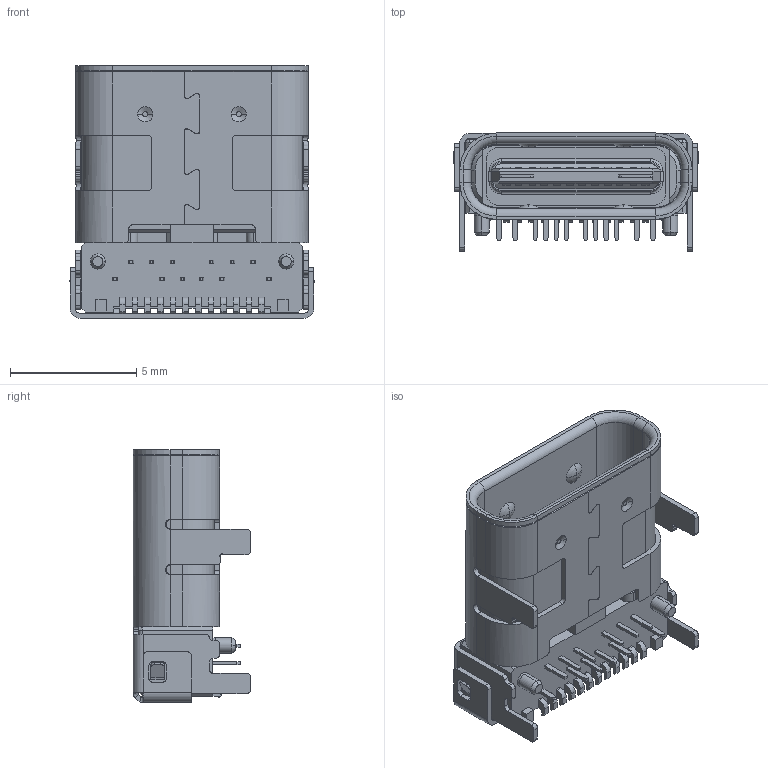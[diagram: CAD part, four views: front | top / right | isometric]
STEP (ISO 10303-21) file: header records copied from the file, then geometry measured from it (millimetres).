
FILE_DESCRIPTION((''),'2;1');
FILE_NAME('U3C41A-24BM4RN10','2020-05-22T',('YF-WYH'),(''),'PRO/ENGINEER BY PARAMETRIC TECHNOLOGY CORPORATION, 2010280','PRO/ENGINEER BY PARAMETRIC TECHNOLOGY CORPORATION, 2010280','');
FILE_SCHEMA(('CONFIG_CONTROL_DESIGN'));
Length unit declared in the file: millimetre
Products named in the file (1): U3C41A-24BM4RN10
Bounding box: 9.71 x 4.66 x 10 mm (x, y, z)
Volume: 174.3 mm3; surface area: 1018.4 mm2
Topology: 2 solids, 87 shells, 1958 faces, 5091 edges, 3268 vertices
Faces by surface type: plane 1560, cylinder 260, cone 52, sphere 48, torus 20, extrusion 16, bspline 2
Entity records: 59231 total; most frequent: CARTESIAN_POINT 11191, ORIENTED_EDGE 10078, DIRECTION 9533, EDGE_CURVE 5039, VECTOR 4233, LINE 4217, VERTEX_POINT 3268, AXIS2_PLACEMENT_3D 2650
